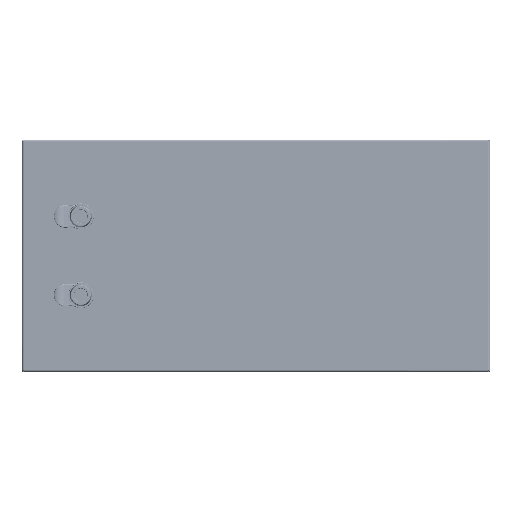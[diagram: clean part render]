
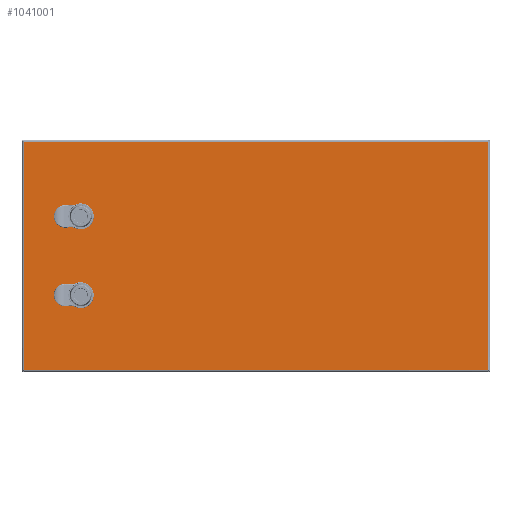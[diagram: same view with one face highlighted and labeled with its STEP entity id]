
A CAD part, top view. The second image highlights one B-rep face of the part: STEP entity #1041001.
In plain terms, the highlighted planar face has unit normal (0, 0, 1).
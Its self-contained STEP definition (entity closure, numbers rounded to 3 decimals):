
#1035251=CARTESIAN_POINT(' ',(289.046,146.758,303.371));
#1035252=VERTEX_POINT(' ',#1035251);
#1035881=CARTESIAN_POINT(' ',(289.046,-142.642,303.371));
#1035882=VERTEX_POINT(' ',#1035881);
#1036726=CARTESIAN_POINT(' ',(289.046,146.758,303.371));
#1036731=DIRECTION(' ',(0.,-1.,0.));
#1036736=VECTOR(' ',#1036731,1.);
#1036741=LINE('',#1036726,#1036736);
#1036746=EDGE_CURVE(' ',#1035252,#1035882,#1036741,.T.);
#1038726=CARTESIAN_POINT(' ',(-299.354,-142.642,303.371));
#1038727=VERTEX_POINT(' ',#1038726);
#1039196=CARTESIAN_POINT(' ',(-299.354,146.758,303.371));
#1039197=VERTEX_POINT(' ',#1039196);
#1040871=DIRECTION(' ',(-0.,-0.,1.));
#1040876=CARTESIAN_POINT(' ',(289.046,-142.642,303.371));
#1040881=DIRECTION(' ',(0.,1.,0.));
#1040886=AXIS2_PLACEMENT_3D(' ',#1040876,#1040871,#1040881);
#1040891=PLANE('NONE',#1040886);
#1040896=CARTESIAN_POINT(' ',(-299.354,-142.642,303.371));
#1040901=DIRECTION(' ',(1.,0.,0.));
#1040906=VECTOR(' ',#1040901,1.);
#1040911=LINE('',#1040896,#1040906);
#1040916=EDGE_CURVE(' ',#1038727,#1035882,#1040911,.T.);
#1040921=ORIENTED_EDGE(' ',*,*,#1040916,.T.);
#1040926=ORIENTED_EDGE(' ',*,*,#1036746,.F.);
#1040931=CARTESIAN_POINT(' ',(289.046,146.758,303.371));
#1040936=DIRECTION(' ',(-1.,0.,0.));
#1040941=VECTOR(' ',#1040936,1.);
#1040946=LINE('',#1040931,#1040941);
#1040951=EDGE_CURVE(' ',#1035252,#1039197,#1040946,.T.);
#1040956=ORIENTED_EDGE(' ',*,*,#1040951,.T.);
#1040961=CARTESIAN_POINT(' ',(-299.354,146.758,303.371));
#1040966=DIRECTION(' ',(0.,-1.,0.));
#1040971=VECTOR(' ',#1040966,1.);
#1040976=LINE('',#1040961,#1040971);
#1040981=EDGE_CURVE(' ',#1039197,#1038727,#1040976,.T.);
#1040986=ORIENTED_EDGE(' ',*,*,#1040981,.T.);
#1040991=EDGE_LOOP(' ',(#1040921,#1040926,#1040956,#1040986));
#1040996=FACE_OUTER_BOUND(' ',#1040991,.T.);
#1041001=ADVANCED_FACE('NONE',(#1040996),#1040891,.T.);
